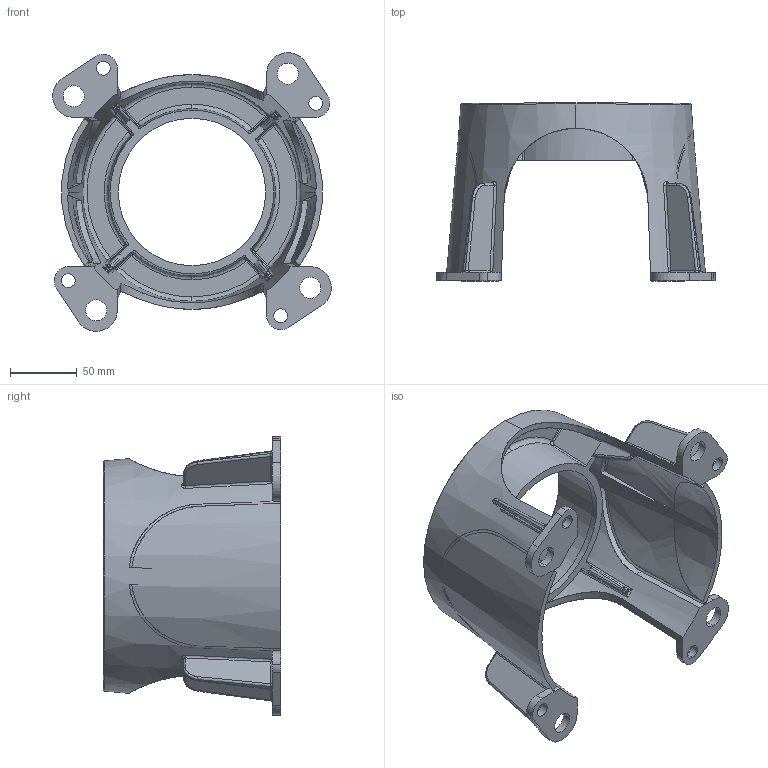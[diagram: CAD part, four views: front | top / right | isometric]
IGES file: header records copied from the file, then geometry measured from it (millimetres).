
Start section: 3D InterOp IGES (Version 19 0 3), Spatial Corp. Copyright (c) 1999-2007.
Global section: file name: export0.igs; native system: Spatial Corp.; preprocessor: 3D InterOp ACIS/IGES; author: Noname; organization: Noname; date: 20101206.111035; units: centimetre
Bounding box: 209.3 x 133.35 x 209.3 mm (x, y, z)
Surface area: 193642.3 mm2 (no closed solid volume)
Topology: 0 solids, 0 shells, 337 faces, 1774 edges, 1766 vertices
Faces by surface type: bspline 176, revolution 96, extrusion 65
